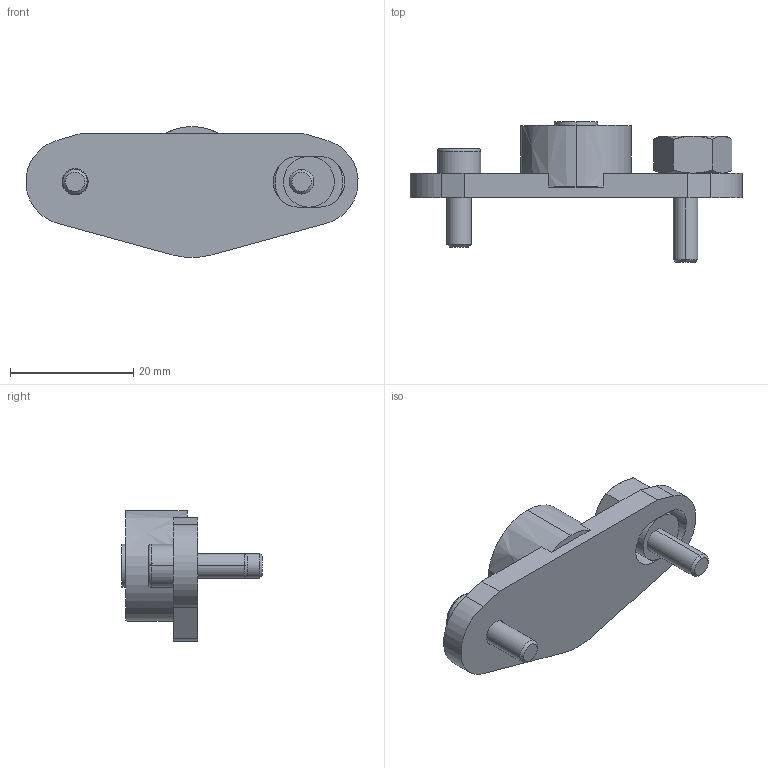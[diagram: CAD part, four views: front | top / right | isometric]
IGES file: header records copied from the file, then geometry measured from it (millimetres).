
Start section: 3D InterOp IGES (v. 2019 1.0.2), Spatial Corp. Copyright (c) 1999-2017.
Global section: file name: BHR 18 ENS.igs; native system: Spatial Corp.; preprocessor: 3D InterOp GENERIC/IGES 3.0; author: Noname; organization: Noname; date: 20220628.172227; units: millimetre
Bounding box: 53.95 x 22.9 x 21.27 mm (x, y, z)
Surface area: 3793.9 mm2 (no closed solid volume)
Topology: 0 solids, 0 shells, 107 faces, 506 edges, 502 vertices
Faces by surface type: revolution 53, extrusion 52, bspline 2
